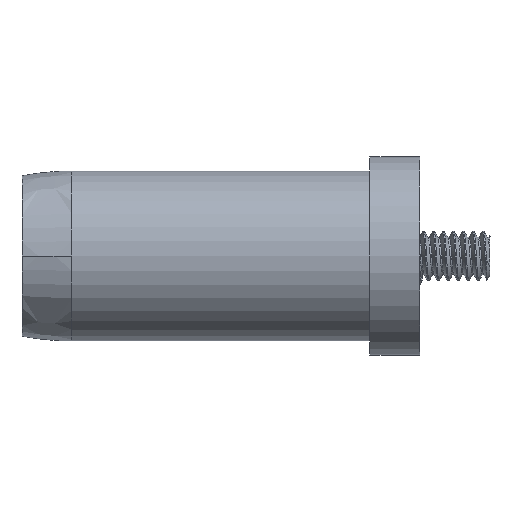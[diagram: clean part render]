
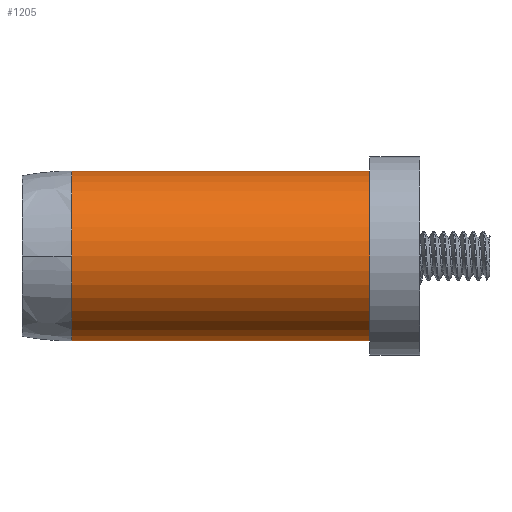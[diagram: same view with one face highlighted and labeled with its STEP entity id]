
A CAD part, front view. The second image highlights one B-rep face of the part: STEP entity #1205.
In plain terms, the highlighted cylindrical face has radius 10.858 mm (diameter 21.717 mm), a partial arc.
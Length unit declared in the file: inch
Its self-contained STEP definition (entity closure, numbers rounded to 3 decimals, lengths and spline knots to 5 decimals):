
#252 = EDGE_LOOP ( 'NONE', ( #7044, #6125, #6710, #2130, #544 ) ) ;
#544 = ORIENTED_EDGE ( 'NONE', *, *, #4172, .T. ) ;
#607 = EDGE_CURVE ( 'NONE', #6222, #6378, #1957, .T. ) ;
#724 = AXIS2_PLACEMENT_3D ( 'NONE', #1765, #6349, #2429 ) ;
#1165 = AXIS2_PLACEMENT_3D ( 'NONE', #6027, #2103, #6684 ) ;
#1205 = ADVANCED_FACE ( 'NONE', ( #8305 ), #2248, .T. ) ;
#1394 = CARTESIAN_POINT ( 'NONE',  ( -2., 0., 0. ) ) ;
#1686 = VERTEX_POINT ( 'NONE', #2388 ) ;
#1752 = CARTESIAN_POINT ( 'NONE',  ( -2.25, 0., -0.4275 ) ) ;
#1765 = CARTESIAN_POINT ( 'NONE',  ( -2., 0., 0. ) ) ;
#1957 = CIRCLE ( 'NONE', #1165, 0.4275 ) ;
#2056 = DIRECTION ( 'NONE',  ( 0., 0., 1. ) ) ;
#2103 = DIRECTION ( 'NONE',  ( -1., 0., 0. ) ) ;
#2130 = ORIENTED_EDGE ( 'NONE', *, *, #5425, .T. ) ;
#2140 = VECTOR ( 'NONE', #6334, 39.37008 ) ;
#2248 = CYLINDRICAL_SURFACE ( 'NONE', #2769, 0.4275 ) ;
#2388 = CARTESIAN_POINT ( 'NONE',  ( -2., 0., 0.4275 ) ) ;
#2429 = DIRECTION ( 'NONE',  ( 0., 0., 1. ) ) ;
#2769 = AXIS2_PLACEMENT_3D ( 'NONE', #7031, #6368, #6309 ) ;
#3894 = AXIS2_PLACEMENT_3D ( 'NONE', #1394, #5976, #2056 ) ;
#4172 = EDGE_CURVE ( 'NONE', #7370, #5471, #4849, .T. ) ;
#4849 = CIRCLE ( 'NONE', #724, 0.4275 ) ;
#5425 = EDGE_CURVE ( 'NONE', #1686, #7370, #7386, .T. ) ;
#5471 = VERTEX_POINT ( 'NONE', #7327 ) ;
#5504 = CARTESIAN_POINT ( 'NONE',  ( -0.5, 0., 0.4275 ) ) ;
#5527 = LINE ( 'NONE', #6816, #7060 ) ;
#5976 = DIRECTION ( 'NONE',  ( 1., 0., 0. ) ) ;
#6027 = CARTESIAN_POINT ( 'NONE',  ( -0.5, 0., 0. ) ) ;
#6125 = ORIENTED_EDGE ( 'NONE', *, *, #607, .T. ) ;
#6222 = VERTEX_POINT ( 'NONE', #7405 ) ;
#6309 = DIRECTION ( 'NONE',  ( 0., 0., 1. ) ) ;
#6334 = DIRECTION ( 'NONE',  ( -1., 0., 0. ) ) ;
#6349 = DIRECTION ( 'NONE',  ( 1., 0., 0. ) ) ;
#6368 = DIRECTION ( 'NONE',  ( -1., 0., 0. ) ) ;
#6378 = VERTEX_POINT ( 'NONE', #5504 ) ;
#6414 = EDGE_CURVE ( 'NONE', #6378, #1686, #5527, .T. ) ;
#6684 = DIRECTION ( 'NONE',  ( 0., 0., 1. ) ) ;
#6710 = ORIENTED_EDGE ( 'NONE', *, *, #6414, .T. ) ;
#6816 = CARTESIAN_POINT ( 'NONE',  ( -2.25, 0., 0.4275 ) ) ;
#7031 = CARTESIAN_POINT ( 'NONE',  ( -2.25, 0., 0. ) ) ;
#7044 = ORIENTED_EDGE ( 'NONE', *, *, #7131, .F. ) ;
#7060 = VECTOR ( 'NONE', #7489, 39.37008 ) ;
#7131 = EDGE_CURVE ( 'NONE', #6222, #5471, #7163, .T. ) ;
#7163 = LINE ( 'NONE', #1752, #2140 ) ;
#7327 = CARTESIAN_POINT ( 'NONE',  ( -2., 0., -0.4275 ) ) ;
#7370 = VERTEX_POINT ( 'NONE', #8173 ) ;
#7386 = CIRCLE ( 'NONE', #3894, 0.4275 ) ;
#7405 = CARTESIAN_POINT ( 'NONE',  ( -0.5, 0., -0.4275 ) ) ;
#7489 = DIRECTION ( 'NONE',  ( -1., 0., 0. ) ) ;
#8173 = CARTESIAN_POINT ( 'NONE',  ( -2., -0.4275, 0. ) ) ;
#8305 = FACE_OUTER_BOUND ( 'NONE', #252, .T. ) ;
